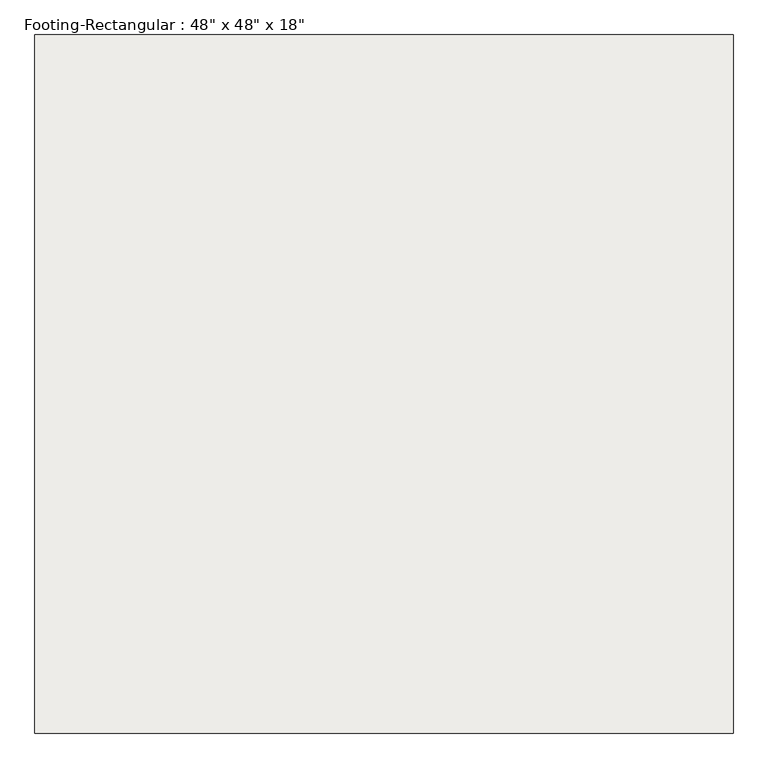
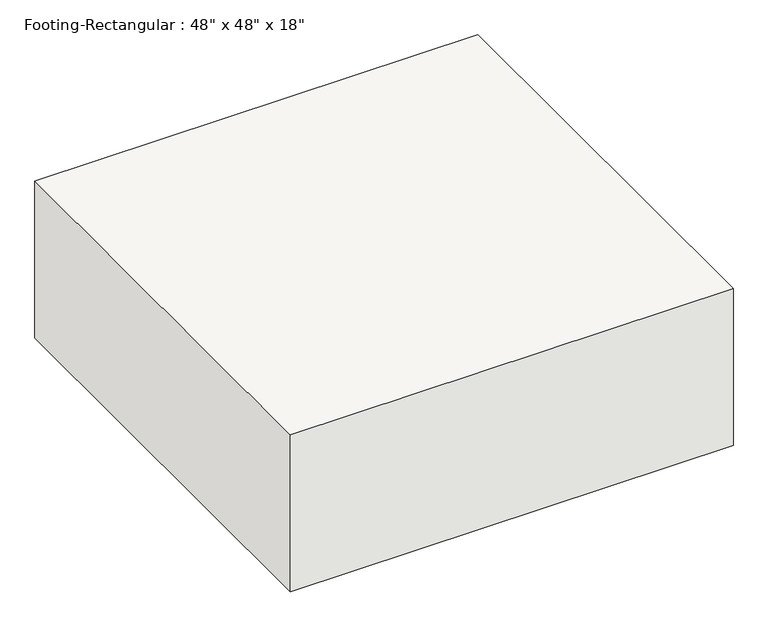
"""IFC4 building model written with IfcOpenShell, lengths in millimetres: slab geometry."""

from ifc_helpers import new_model, si_unit, frame, origin, place, context, project, spatial, polyline, outline, extrude, source, transform, mapped, element, save


def slab_ae0d545e(model_context):
    return source(origin(), model_context, "Body", "SweptSolid", [
        extrude(outline(polyline([(609.6, 609.6), (609.6, -609.6), (-609.6, -609.6), (-609.6, 609.6), (609.6, 609.6)])), frame((0.0, 0.0, -457.2), z_axis=(0.0, 0.0, 1.0), x_axis=(1.0, 0.0, 0.0)), (0.0, 0.0, 1.0), 457.2),
    ])


if __name__ == "__main__":
    model = new_model("IFC4")
    model_context = context("Model", 3, world=origin())
    ifc_project = project(units=[si_unit("LENGTHUNIT", "METRE", prefix="MILLI")], contexts=[model_context])
    site = spatial("IfcSite", under=ifc_project)
    building = spatial("IfcBuilding", under=site)
    placement = place(None, origin())
    slab_shape = slab_ae0d545e(model_context)
    element("IfcSlab", 1, ObjectType="Footing-Rectangular : 48\" x 48\" x 18\"", at=placement, inside=building, context=model_context, shape_type="MappedRepresentation", body=[
        mapped(slab_shape, transform((0.0, 0.0, 0.0), x_axis=(1.0, 0.0, 0.0), y_axis=(0.0, 1.0, 0.0), z_axis=(0.0, 0.0, 1.0))),
    ])
    save(model, "model.ifc")
